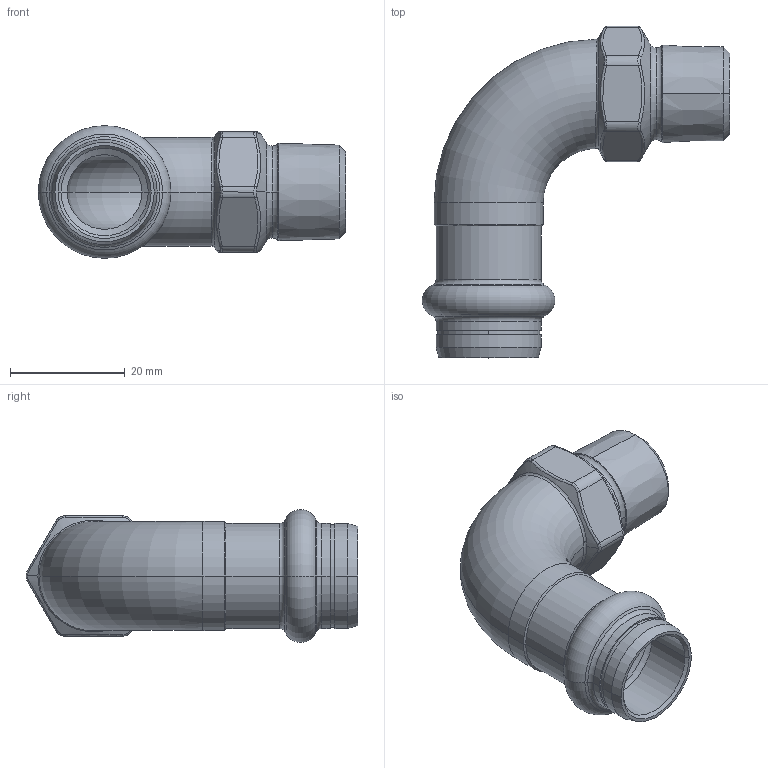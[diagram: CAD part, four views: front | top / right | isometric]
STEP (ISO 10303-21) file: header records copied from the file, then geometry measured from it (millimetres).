
FILE_DESCRIPTION (( 'STEP AP203' ), '1' );
FILE_NAME ('SP4001G Ø15 3-8.STEP', '2017-04-28T08:38:55', ( '' ), ( '' ), 'SwSTEP 2.0', 'SolidWorks 2016', '' );
FILE_SCHEMA (( 'CONFIG_CONTROL_DESIGN' ));
Length unit declared in the file: millimetre
Products named in the file (1): SP4001G Ø15 3-8
Bounding box: 53.55 x 57.81 x 23.1 mm (x, y, z)
Volume: 11223.9 mm3; surface area: 8750.2 mm2
Topology: 1 solids, 1 shells, 116 faces, 255 edges, 144 vertices
Faces by surface type: cone 30, cylinder 29, bspline 26, torus 20, plane 11
Entity records: 4608 total; most frequent: CARTESIAN_POINT 2128, ORIENTED_EDGE 510, DIRECTION 503, EDGE_CURVE 255, AXIS2_PLACEMENT_3D 219, VERTEX_POINT 144, CIRCLE 128, EDGE_LOOP 121
